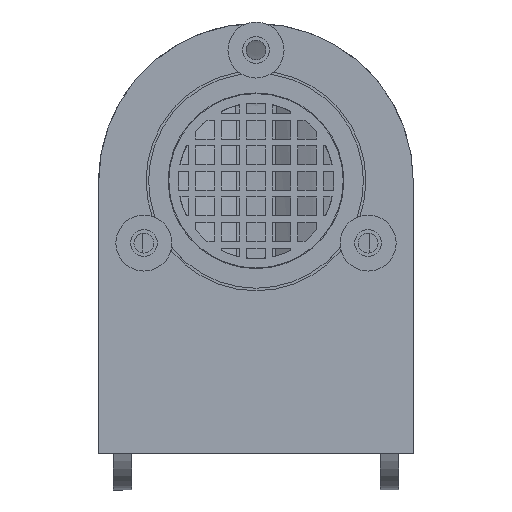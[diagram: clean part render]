
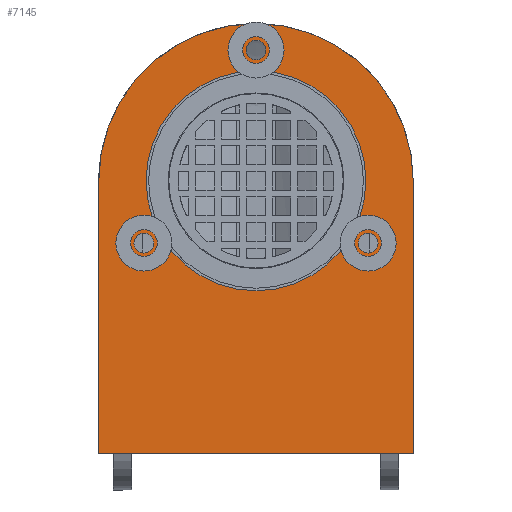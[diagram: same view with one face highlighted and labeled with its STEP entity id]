
A CAD part, top view. The second image highlights one B-rep face of the part: STEP entity #7145.
In plain terms, the highlighted planar face has unit normal (0, 0, 1) by its records, which use the part's own axes.
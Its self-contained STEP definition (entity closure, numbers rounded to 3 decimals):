
#98 = VERTEX_POINT ( 'NONE', #3928 ) ;
#154 = AXIS2_PLACEMENT_3D ( 'NONE', #12000, #6336, #688 ) ;
#246 = EDGE_LOOP ( 'NONE', ( #9571, #8561 ) ) ;
#275 = VERTEX_POINT ( 'NONE', #5203 ) ;
#389 = CARTESIAN_POINT ( 'NONE',  ( 0., -43.75, 0. ) ) ;
#435 = EDGE_CURVE ( 'NONE', #8342, #7216, #6555, .T. ) ;
#521 = EDGE_CURVE ( 'NONE', #11920, #12004, #8187, .T. ) ;
#677 = EDGE_LOOP ( 'NONE', ( #7239, #8351, #6583, #4677, #8983, #4742, #7158, #8987 ) ) ;
#688 = DIRECTION ( 'NONE',  ( -1., 0., 0. ) ) ;
#850 = DIRECTION ( 'NONE',  ( -1., 0., 0. ) ) ;
#914 = CIRCLE ( 'NONE', #7945, 1.6 ) ;
#1070 = CARTESIAN_POINT ( 'NONE',  ( 19.6, -10., 0. ) ) ;
#1210 = EDGE_CURVE ( 'NONE', #2307, #275, #3537, .T. ) ;
#1245 = DIRECTION ( 'NONE',  ( 0., 0., 1. ) ) ;
#1385 = DIRECTION ( 'NONE',  ( 0., 0., -1. ) ) ;
#1393 = FACE_OUTER_BOUND ( 'NONE', #677, .T. ) ;
#1460 = LINE ( 'NONE', #389, #10899 ) ;
#1554 = LINE ( 'NONE', #2106, #11003 ) ;
#1557 = CARTESIAN_POINT ( 'NONE',  ( 17.65, 0., 0. ) ) ;
#1666 = VECTOR ( 'NONE', #10289, 1000. ) ;
#1768 = ORIENTED_EDGE ( 'NONE', *, *, #6474, .T. ) ;
#1843 = LINE ( 'NONE', #3764, #6852 ) ;
#1880 = EDGE_CURVE ( 'NONE', #5466, #3599, #7948, .T. ) ;
#1914 = DIRECTION ( 'NONE',  ( 0., 0., -1. ) ) ;
#1973 = LINE ( 'NONE', #9344, #1666 ) ;
#2106 = CARTESIAN_POINT ( 'NONE',  ( 0., -43.75, 0. ) ) ;
#2119 = DIRECTION ( 'NONE',  ( 0., 0., 1. ) ) ;
#2307 = VERTEX_POINT ( 'NONE', #10648 ) ;
#2315 = ORIENTED_EDGE ( 'NONE', *, *, #1210, .T. ) ;
#2458 = DIRECTION ( 'NONE',  ( 0., 0., -1. ) ) ;
#2658 = VERTEX_POINT ( 'NONE', #7684 ) ;
#2730 = ORIENTED_EDGE ( 'NONE', *, *, #1880, .T. ) ;
#2906 = DIRECTION ( 'NONE',  ( 0., 0., -1. ) ) ;
#3228 = ORIENTED_EDGE ( 'NONE', *, *, #3330, .T. ) ;
#3314 = CIRCLE ( 'NONE', #9270, 1.6 ) ;
#3330 = EDGE_CURVE ( 'NONE', #12004, #11920, #3314, .T. ) ;
#3372 = DIRECTION ( 'NONE',  ( 1., 0., 0. ) ) ;
#3423 = CIRCLE ( 'NONE', #10680, 1.6 ) ;
#3445 = EDGE_LOOP ( 'NONE', ( #10323, #3228 ) ) ;
#3519 = CIRCLE ( 'NONE', #11469, 25.25 ) ;
#3537 = CIRCLE ( 'NONE', #8294, 1.6 ) ;
#3599 = VERTEX_POINT ( 'NONE', #8776 ) ;
#3736 = CARTESIAN_POINT ( 'NONE',  ( 0., -43.75, 0. ) ) ;
#3764 = CARTESIAN_POINT ( 'NONE',  ( 25.25, 0., 0. ) ) ;
#3928 = CARTESIAN_POINT ( 'NONE',  ( -19.95, -43.75, 0. ) ) ;
#3980 = DIRECTION ( 'NONE',  ( 1., 0., 0. ) ) ;
#4010 = VERTEX_POINT ( 'NONE', #10361 ) ;
#4043 = VECTOR ( 'NONE', #11020, 1000. ) ;
#4283 = EDGE_CURVE ( 'NONE', #5545, #4321, #914, .T. ) ;
#4321 = VERTEX_POINT ( 'NONE', #7433 ) ;
#4339 = CIRCLE ( 'NONE', #154, 17.65 ) ;
#4399 = CARTESIAN_POINT ( 'NONE',  ( -25.25, 0., 0. ) ) ;
#4479 = CARTESIAN_POINT ( 'NONE',  ( 0., 21., 0. ) ) ;
#4677 = ORIENTED_EDGE ( 'NONE', *, *, #11379, .T. ) ;
#4720 = CARTESIAN_POINT ( 'NONE',  ( -18., -10., 0. ) ) ;
#4742 = ORIENTED_EDGE ( 'NONE', *, *, #9069, .T. ) ;
#5203 = CARTESIAN_POINT ( 'NONE',  ( -19.6, -10., 0. ) ) ;
#5423 = DIRECTION ( 'NONE',  ( -1., 0., 0. ) ) ;
#5466 = VERTEX_POINT ( 'NONE', #1557 ) ;
#5509 = CARTESIAN_POINT ( 'NONE',  ( 19.95, -43.75, 0. ) ) ;
#5545 = VERTEX_POINT ( 'NONE', #11155 ) ;
#5580 = EDGE_LOOP ( 'NONE', ( #1768, #2315 ) ) ;
#5656 = DIRECTION ( 'NONE',  ( -1., 0., 0. ) ) ;
#5936 = AXIS2_PLACEMENT_3D ( 'NONE', #8099, #2458, #9039 ) ;
#6336 = DIRECTION ( 'NONE',  ( 0., 0., -1. ) ) ;
#6348 = VERTEX_POINT ( 'NONE', #9783 ) ;
#6474 = EDGE_CURVE ( 'NONE', #275, #2307, #7855, .T. ) ;
#6488 = DIRECTION ( 'NONE',  ( 0., 0., -1. ) ) ;
#6504 = LINE ( 'NONE', #4399, #4043 ) ;
#6540 = AXIS2_PLACEMENT_3D ( 'NONE', #11568, #2119, #8748 ) ;
#6555 = LINE ( 'NONE', #3736, #8785 ) ;
#6583 = ORIENTED_EDGE ( 'NONE', *, *, #10587, .T. ) ;
#6846 = PLANE ( 'NONE',  #6540 ) ;
#6852 = VECTOR ( 'NONE', #10338, 1000. ) ;
#6879 = CARTESIAN_POINT ( 'NONE',  ( 0., 0., 0. ) ) ;
#7025 = CARTESIAN_POINT ( 'NONE',  ( 18., -10., 0. ) ) ;
#7132 = CARTESIAN_POINT ( 'NONE',  ( -22.95, -43.75, 0. ) ) ;
#7145 = ADVANCED_FACE ( 'NONE', ( #8909, #8607, #11424, #11120, #1393 ), #6846, .T. ) ;
#7158 = ORIENTED_EDGE ( 'NONE', *, *, #11785, .T. ) ;
#7216 = VERTEX_POINT ( 'NONE', #7132 ) ;
#7239 = ORIENTED_EDGE ( 'NONE', *, *, #435, .T. ) ;
#7240 = VECTOR ( 'NONE', #3372, 1000. ) ;
#7406 = VERTEX_POINT ( 'NONE', #9269 ) ;
#7433 = CARTESIAN_POINT ( 'NONE',  ( 1.6, 21., 0. ) ) ;
#7534 = LINE ( 'NONE', #8071, #7240 ) ;
#7537 = CARTESIAN_POINT ( 'NONE',  ( -18., -10., 0. ) ) ;
#7684 = CARTESIAN_POINT ( 'NONE',  ( 25.25, 0., 0. ) ) ;
#7827 = DIRECTION ( 'NONE',  ( 1., 0., 0. ) ) ;
#7855 = CIRCLE ( 'NONE', #10175, 1.6 ) ;
#7945 = AXIS2_PLACEMENT_3D ( 'NONE', #12152, #6488, #850 ) ;
#7948 = CIRCLE ( 'NONE', #5936, 17.65 ) ;
#7971 = DIRECTION ( 'NONE',  ( -1., 0., 0. ) ) ;
#8071 = CARTESIAN_POINT ( 'NONE',  ( 0., -43.75, 0. ) ) ;
#8075 = EDGE_CURVE ( 'NONE', #6348, #8342, #6504, .T. ) ;
#8099 = CARTESIAN_POINT ( 'NONE',  ( 0., 0., 0. ) ) ;
#8111 = EDGE_CURVE ( 'NONE', #3599, #5466, #4339, .T. ) ;
#8187 = CIRCLE ( 'NONE', #11028, 1.6 ) ;
#8270 = EDGE_CURVE ( 'NONE', #7406, #4010, #7534, .T. ) ;
#8294 = AXIS2_PLACEMENT_3D ( 'NONE', #7537, #1914, #8503 ) ;
#8342 = VERTEX_POINT ( 'NONE', #10916 ) ;
#8345 = VERTEX_POINT ( 'NONE', #5509 ) ;
#8351 = ORIENTED_EDGE ( 'NONE', *, *, #9141, .T. ) ;
#8503 = DIRECTION ( 'NONE',  ( -1., 0., 0. ) ) ;
#8549 = CARTESIAN_POINT ( 'NONE',  ( 18., -10., 0. ) ) ;
#8561 = ORIENTED_EDGE ( 'NONE', *, *, #8862, .T. ) ;
#8607 = FACE_BOUND ( 'NONE', #246, .T. ) ;
#8748 = DIRECTION ( 'NONE',  ( 1., 0., 0. ) ) ;
#8776 = CARTESIAN_POINT ( 'NONE',  ( -17.65, 0., 0. ) ) ;
#8785 = VECTOR ( 'NONE', #11279, 1000. ) ;
#8862 = EDGE_CURVE ( 'NONE', #4321, #5545, #3423, .T. ) ;
#8909 = FACE_BOUND ( 'NONE', #11367, .T. ) ;
#8983 = ORIENTED_EDGE ( 'NONE', *, *, #8270, .T. ) ;
#8987 = ORIENTED_EDGE ( 'NONE', *, *, #8075, .T. ) ;
#9039 = DIRECTION ( 'NONE',  ( -1., 0., 0. ) ) ;
#9069 = EDGE_CURVE ( 'NONE', #4010, #2658, #1843, .T. ) ;
#9141 = EDGE_CURVE ( 'NONE', #7216, #98, #1554, .T. ) ;
#9269 = CARTESIAN_POINT ( 'NONE',  ( 22.95, -43.75, 0. ) ) ;
#9270 = AXIS2_PLACEMENT_3D ( 'NONE', #7025, #1385, #7971 ) ;
#9344 = CARTESIAN_POINT ( 'NONE',  ( 0., -43.75, 0. ) ) ;
#9501 = DIRECTION ( 'NONE',  ( -1., 0., 0. ) ) ;
#9571 = ORIENTED_EDGE ( 'NONE', *, *, #4283, .T. ) ;
#9783 = CARTESIAN_POINT ( 'NONE',  ( -25.25, 0., 0. ) ) ;
#9827 = DIRECTION ( 'NONE',  ( 1., 0., 0. ) ) ;
#10031 = ORIENTED_EDGE ( 'NONE', *, *, #8111, .T. ) ;
#10051 = CARTESIAN_POINT ( 'NONE',  ( 16.4, -10., 0. ) ) ;
#10175 = AXIS2_PLACEMENT_3D ( 'NONE', #4720, #11309, #5656 ) ;
#10289 = DIRECTION ( 'NONE',  ( 1., 0., 0. ) ) ;
#10323 = ORIENTED_EDGE ( 'NONE', *, *, #521, .T. ) ;
#10338 = DIRECTION ( 'NONE',  ( 0., 1., 0. ) ) ;
#10361 = CARTESIAN_POINT ( 'NONE',  ( 25.25, -43.75, 0. ) ) ;
#10587 = EDGE_CURVE ( 'NONE', #98, #8345, #1973, .T. ) ;
#10648 = CARTESIAN_POINT ( 'NONE',  ( -16.4, -10., 0. ) ) ;
#10680 = AXIS2_PLACEMENT_3D ( 'NONE', #4479, #11068, #5423 ) ;
#10899 = VECTOR ( 'NONE', #9827, 1000. ) ;
#10916 = CARTESIAN_POINT ( 'NONE',  ( -25.25, -43.75, 0. ) ) ;
#11003 = VECTOR ( 'NONE', #3980, 1000. ) ;
#11020 = DIRECTION ( 'NONE',  ( 0., -1., 0. ) ) ;
#11028 = AXIS2_PLACEMENT_3D ( 'NONE', #8549, #2906, #9501 ) ;
#11068 = DIRECTION ( 'NONE',  ( 0., 0., -1. ) ) ;
#11120 = FACE_BOUND ( 'NONE', #3445, .T. ) ;
#11155 = CARTESIAN_POINT ( 'NONE',  ( -1.6, 21., 0. ) ) ;
#11279 = DIRECTION ( 'NONE',  ( 1., 0., 0. ) ) ;
#11309 = DIRECTION ( 'NONE',  ( 0., 0., -1. ) ) ;
#11367 = EDGE_LOOP ( 'NONE', ( #10031, #2730 ) ) ;
#11379 = EDGE_CURVE ( 'NONE', #8345, #7406, #1460, .T. ) ;
#11424 = FACE_BOUND ( 'NONE', #5580, .T. ) ;
#11469 = AXIS2_PLACEMENT_3D ( 'NONE', #6879, #1245, #7827 ) ;
#11568 = CARTESIAN_POINT ( 'NONE',  ( 0., 0., 0. ) ) ;
#11785 = EDGE_CURVE ( 'NONE', #2658, #6348, #3519, .T. ) ;
#11920 = VERTEX_POINT ( 'NONE', #10051 ) ;
#12000 = CARTESIAN_POINT ( 'NONE',  ( 0., 0., 0. ) ) ;
#12004 = VERTEX_POINT ( 'NONE', #1070 ) ;
#12152 = CARTESIAN_POINT ( 'NONE',  ( 0., 21., 0. ) ) ;
